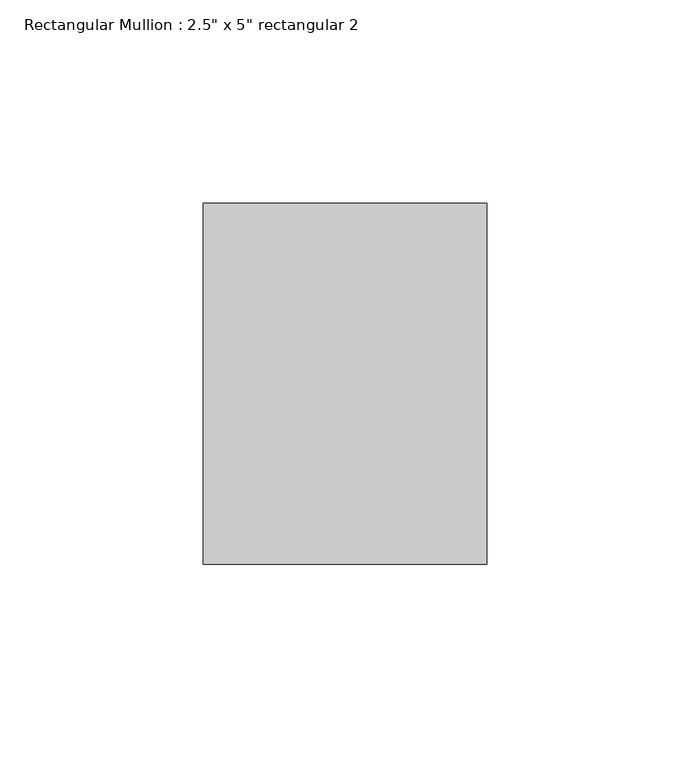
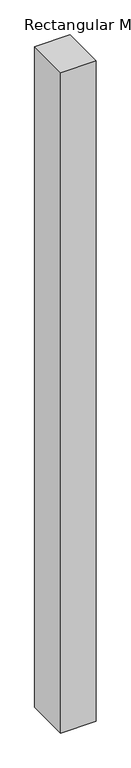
"""IFC4 building model written with IfcOpenShell, lengths in millimetres: member geometry."""

import ifcopenshell
import ifcopenshell.guid

model = None  # the IFC model being written
_history = None  # IfcOwnerHistory: only IFC2X3 demands one
_inside = {}  # id of a spatial element -> (the spatial element, [elements in it])
_under = {}  # id of a project, library or spatial element -> (it, [spatial elements below it])
_declared = {}  # id of a project -> (the project, [libraries it declares])
_typed = {}  # id of a type object -> (the type object, [elements of that type])
_made_of = {}  # id of a material, layer set ... -> (it, [elements and type objects made of it])


def new_model(schema):
    """Start an empty IFC model of exactly this schema.

    Asked for "IFC4X3", IfcOpenShell would pick the latest addendum, in which some entities
    have other attributes; the version numbers below select the first issue.
    IFC2X3 requires an IfcOwnerHistory on every rooted entity: one is made here for all.
    """
    global model, _history
    if schema == "IFC4X3":
        model = ifcopenshell.file(schema_version=(4, 3, 0, 0))
    else:
        model = ifcopenshell.file(schema=schema)
    _inside.clear()
    _under.clear()
    _declared.clear()
    _typed.clear()
    _made_of.clear()
    _history = None
    if model.schema == "IFC2X3":
        org = make("IfcOrganization", Name="unknown")
        user = make(
            "IfcPersonAndOrganization",
            ThePerson=make("IfcPerson", FamilyName="unknown"),
            TheOrganization=org,
        )
        app = make(
            "IfcApplication",
            ApplicationDeveloper=org,
            Version="unknown",
            ApplicationFullName="unknown",
            ApplicationIdentifier="unknown",
        )
        _history = make(
            "IfcOwnerHistory",
            OwningUser=user,
            OwningApplication=app,
            ChangeAction="ADDED",
            CreationDate=0,
        )
    return model


def make(cls, **values):
    """One entity of the class cls with the attributes given. An attribute that is None is left unset."""
    return model.create_entity(
        cls, **{name: value for name, value in values.items() if value is not None}
    )


def rooted(cls, **values):
    """An entity with a GlobalId (a new one), such as an element, a storey or a relation."""
    return make(cls, GlobalId=ifcopenshell.guid.new(), OwnerHistory=_history, **values)


def si_unit(unit_type, name, prefix=None):
    """IfcSIUnit, for example si_unit("LENGTHUNIT", "METRE", prefix="MILLI")."""
    return make("IfcSIUnit", UnitType=unit_type, Prefix=prefix, Name=name)


def assignment(units):
    """IfcUnitAssignment: the units of a project."""
    return None if units is None else make("IfcUnitAssignment", Units=units)


def point(xyz):
    """IfcCartesianPoint."""
    return None if xyz is None else make("IfcCartesianPoint", Coordinates=xyz)


def direction(xyz):
    """IfcDirection."""
    return None if xyz is None else make("IfcDirection", DirectionRatios=xyz)


def frame(location, z_axis=None, x_axis=None):
    """IfcAxis2Placement3D, a coordinate frame: its origin and axes. An axis left out is left unset."""
    return make(
        "IfcAxis2Placement3D",
        Location=point(location),
        Axis=direction(z_axis),
        RefDirection=direction(x_axis),
    )


def origin():
    """The frame at (0, 0, 0) with its axes left unset."""
    return frame((0.0, 0.0, 0.0))


def place(relative_to, where):
    """IfcLocalPlacement: puts the frame where relative to a parent placement (None: the world)."""
    return make(
        "IfcLocalPlacement", PlacementRelTo=relative_to, RelativePlacement=where
    )


def context(
    kind, dimensions, precision=None, world=None, true_north=None, identifier=None
):
    """IfcGeometricRepresentationContext, for example the 3D "Model" context."""
    return make(
        "IfcGeometricRepresentationContext",
        ContextIdentifier=identifier,
        ContextType=kind,
        CoordinateSpaceDimension=dimensions,
        Precision=precision,
        WorldCoordinateSystem=world,
        TrueNorth=true_north,
    )


def project(units=None, contexts=None):
    """IfcProject with its units and contexts."""
    return rooted(
        "IfcProject",
        Name="project",
        RepresentationContexts=contexts,
        UnitsInContext=assignment(units),
    )


def spatial(cls, under=None, at=None, **own):
    """A site, building, storey or space (cls), placed at a placement, below another one or the project."""
    s = rooted(cls, ObjectPlacement=at, **own)
    if under is not None:
        _under.setdefault(under.id(), (under, []))[1].append(s)
    return s


def polyline(points):
    """IfcPolyline through the points."""
    return make("IfcPolyline", Points=[point(p) for p in points])


def outline(outer, holes=None, kind="AREA"):
    """IfcArbitraryClosedProfileDef: a profile drawn as a closed curve; with holes, ...WithVoids."""
    if holes is None:
        return make("IfcArbitraryClosedProfileDef", ProfileType=kind, OuterCurve=outer)
    return make(
        "IfcArbitraryProfileDefWithVoids",
        ProfileType=kind,
        OuterCurve=outer,
        InnerCurves=holes,
    )


def extrude(swept, where, along, depth):
    """IfcExtrudedAreaSolid: the profile swept, set in the frame where, extruded along a direction by depth."""
    return make(
        "IfcExtrudedAreaSolid",
        SweptArea=swept,
        Position=where,
        ExtrudedDirection=direction(along),
        Depth=depth,
    )


def shape(context_of_items, identifier, shape_type, items):
    """IfcShapeRepresentation: the items that make up one representation, for example the "Body"."""
    return make(
        "IfcShapeRepresentation",
        ContextOfItems=context_of_items,
        RepresentationIdentifier=identifier,
        RepresentationType=shape_type,
        Items=items,
    )


def source(mapping_origin, context_of_items, identifier, shape_type, items):
    """IfcRepresentationMap: a shape defined once, which mapped items show again and again."""
    return make(
        "IfcRepresentationMap",
        MappingOrigin=mapping_origin,
        MappedRepresentation=shape(context_of_items, identifier, shape_type, items),
    )


def transform(
    local_origin,
    x_axis=None,
    y_axis=None,
    z_axis=None,
    scale=None,
    scale2=None,
    scale3=None,
    uniform=True,
):
    """IfcCartesianTransformationOperator3D, or its non-uniform kind. x_axis, y_axis, z_axis: its Axis1, 2, 3."""
    if uniform:
        return make(
            "IfcCartesianTransformationOperator3D",
            Axis1=direction(x_axis),
            Axis2=direction(y_axis),
            LocalOrigin=point(local_origin),
            Scale=scale,
            Axis3=direction(z_axis),
        )
    return make(
        "IfcCartesianTransformationOperator3DnonUniform",
        Axis1=direction(x_axis),
        Axis2=direction(y_axis),
        LocalOrigin=point(local_origin),
        Scale=scale,
        Axis3=direction(z_axis),
        Scale2=scale2,
        Scale3=scale3,
    )


def mapped(mapping_source, mapping_target):
    """IfcMappedItem: shows the shape of a source again, moved by a transform."""
    return make(
        "IfcMappedItem", MappingSource=mapping_source, MappingTarget=mapping_target
    )


def made_of(thing, what):
    """Note that an element or type object is made of a material, layer set ...; save() writes the relation."""
    if what is not None:
        _made_of.setdefault(what.id(), (what, []))[1].append(thing)
    return thing


def element(
    cls,
    number,
    at=None,
    inside=None,
    cuts=None,
    type_object=None,
    material=None,
    context=None,
    identifier="Body",
    shape_type=None,
    held_by="IfcProductDefinitionShape",
    body=None,
    shapes=None,
    **own,
):
    """One element of the class cls, such as IfcWall. Its Tag is "e" and its number.

    at: its placement. inside: the storey or other place that contains it. cuts: it is an
    opening in that element (IfcRelVoidsElement). A single representation is given by context,
    identifier, shape_type and body (its items); several are given by shapes. held_by: the class
    of the entity that holds the representations. save() writes the other relations.
    """
    e = rooted(cls, Tag="e%d" % number, ObjectPlacement=at, **own)
    if body is not None:
        shapes = [shape(context, identifier, shape_type, body)]
    if shapes is not None:
        e.Representation = make(held_by, Representations=shapes)
    if inside is not None:
        _inside.setdefault(inside.id(), (inside, []))[1].append(e)
    if cuts is not None:
        rooted(
            "IfcRelVoidsElement", RelatingBuildingElement=cuts, RelatedOpeningElement=e
        )
    if type_object is not None:
        _typed.setdefault(type_object.id(), (type_object, []))[1].append(e)
    return made_of(e, material)


def aggregate(whole, parts):
    """IfcRelAggregates: a whole, such as a stair, and the parts it consists of."""
    return rooted("IfcRelAggregates", RelatingObject=whole, RelatedObjects=parts)


def save(model, path):
    """Write the relations noted so far, then the file.

    IfcRelAggregates (storeys below a building ...), IfcRelContainedInSpatialStructure (elements
    in a storey), IfcRelDefinesByType, IfcRelAssociatesMaterial and IfcRelDeclares: one each for
    every whole, place, type object, material and project.
    """
    for whole, parts in _under.values():
        aggregate(whole, parts)
    for where, things in _inside.values():
        rooted(
            "IfcRelContainedInSpatialStructure",
            RelatedElements=things,
            RelatingStructure=where,
        )
    for kind, things in _typed.values():
        rooted("IfcRelDefinesByType", RelatedObjects=things, RelatingType=kind)
    for what, things in _made_of.values():
        rooted("IfcRelAssociatesMaterial", RelatedObjects=things, RelatingMaterial=what)
    for by, libraries in _declared.values():
        rooted("IfcRelDeclares", RelatingContext=by, RelatedDefinitions=libraries)
    model.write(path)


def member_9fea516c(model_context):
    return source(origin(), model_context, "Body", "SweptSolid", [
        extrude(outline(polyline([(0.0, 44.45), (0.0, -44.45), (-69.85, -44.45), (-69.85, 44.45), (0.0, 44.45)])), frame((0.0, 0.0, -1375.935445), z_axis=(0.0, 0.0, 1.0), x_axis=(1.0, 0.0, 0.0)), (0.0, 0.0, 1.0), 1375.935445),
    ])


if __name__ == "__main__":
    model = new_model("IFC4")
    model_context = context("Model", 3, world=origin())
    ifc_project = project(units=[si_unit("LENGTHUNIT", "METRE", prefix="MILLI")], contexts=[model_context])
    site = spatial("IfcSite", under=ifc_project)
    building = spatial("IfcBuilding", under=site)
    placement = place(None, origin())
    member_shape = member_9fea516c(model_context)
    element("IfcMember", 1, ObjectType="Rectangular Mullion : 2.5\" x 5\" rectangular 2", at=placement, inside=building, context=model_context, shape_type="MappedRepresentation", body=[
        mapped(member_shape, transform((0.0, 0.0, 0.0), x_axis=(1.0, 0.0, 0.0), y_axis=(0.0, 1.0, 0.0), z_axis=(0.0, 0.0, 1.0))),
    ])
    save(model, "model.ifc")
